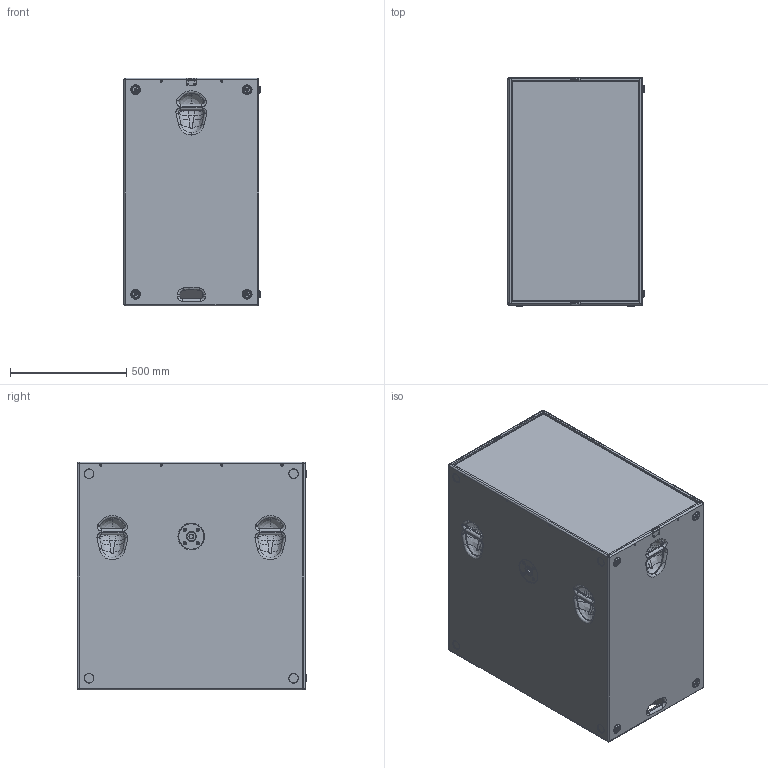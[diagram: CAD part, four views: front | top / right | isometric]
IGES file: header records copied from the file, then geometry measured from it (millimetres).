
Start section: SolidWorks IGES file using analytic representation for surfaces
Global section: file name: D:\Entwicklungen\Projekte aktuell\P-Sub\Solid\PSX221v1\WEB\PSX.IGS; native system: SolidWorks 2009; preprocessor: SolidWorks 2009; author: Nico; date: 210706.125332; units: millimetre
Bounding box: 585.5 x 985.5 x 980 mm (x, y, z)
Volume: 53817529.6 mm3; surface area: 9110712.1 mm2
Topology: 85 solids, 85 shells, 4196 faces, 10120 edges, 6157 vertices
Faces by surface type: revolution 2134, plane 1786, bspline 276
